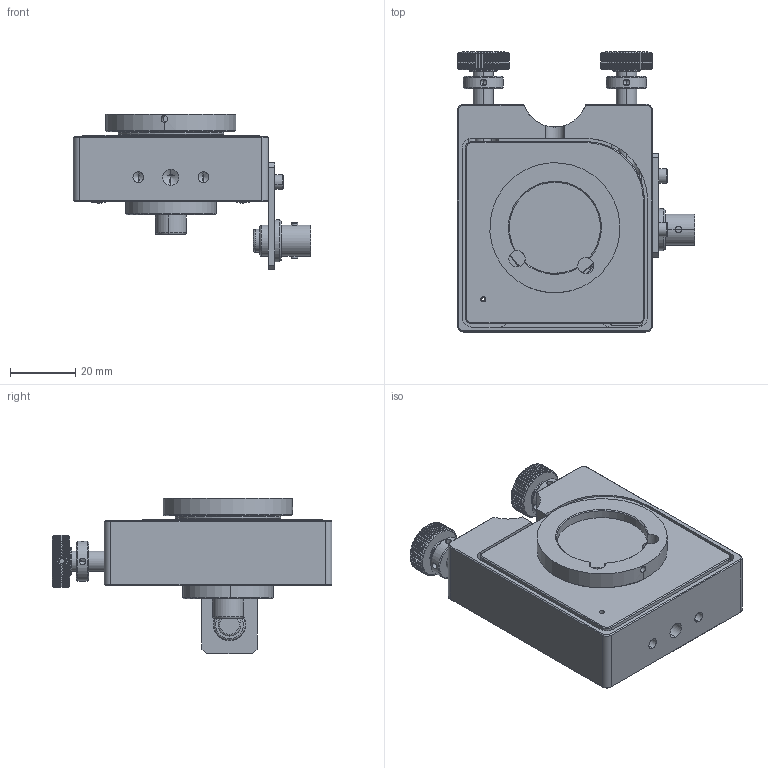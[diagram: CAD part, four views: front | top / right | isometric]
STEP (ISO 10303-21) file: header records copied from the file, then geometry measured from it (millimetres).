
FILE_DESCRIPTION (( 'STEP AP203' ), '1' );
FILE_NAME ('T25Z1K-B1定制版（H80）(25直径镜片).STEP', '2024-11-28T03:12:10', ( 'Windows User' ), ( 'P R C' ), 'SwSTEP 2.0', 'SolidWorks 2016', '' );
FILE_SCHEMA (( 'CONFIG_CONTROL_DESIGN' ));
Length unit declared in the file: millimetre
Products named in the file (27): T25Z1K-B1定制版（H80）(25直径镜片); N81蹟裝郪傖B; N81蹟裝郪傖C; N81蹟裝C1; NMV25.4蹟杶; BNC諉諳; NMV25.4挃詩菜; NMV38.1嘐隅殤; M6-16; N81蹟裝D1; TUN褲极; 9.5詩紩; NMV25.4詩紩; T30Z1K.24.03.23; hexagon socket head cap screws gb_GB_FASTENER_SCREWS_HSHCS M2.5X4-N; BNC蟀諉殤A1; ZT35H80K-3D装配体（25）; NMV25.4覃淕輸; 覃淕殤NMV38.1; NMV38.1覃淕殤; NMV25.4覃淕裝; TUB噩え盓殤25; 湍豪恇蹟譫-2; NMV25.4坶踡簽; NMV25.4嶺銅裝; GB╱T 77-2007[内六角平端紧定螺钉M4×12]_M4×8; hex socket set screws with cone point gb_GB_FASTENER_SCREWS_HSCP M2.5X3-N
Assembly tree (37 placements, depth 4):
  T25Z1K-B1定制版（H80）(25直径镜片)
    T30Z1K.24.03.23
      NMV38.1嘐隅殤
      覃淕殤NMV38.1
        NMV38.1覃淕殤
        NMV25.4覃淕輸  x2
      NMV25.4詩紩  x2
      NMV25.4嶺銅裝  x4
      NMV25.4挃詩菜
      NMV25.4蹟杶  x2
      NMV25.4坶踡簽  x2
      N81蹟裝郪傖B
        N81蹟裝D1
        湍豪恇蹟譫-2
        hex socket set screws with cone point gb_GB_FASTENER_SCREWS_HSCP M2.5X3-N
      N81蹟裝郪傖C
        N81蹟裝C1
        湍豪恇蹟譫-2
        hex socket set screws with cone point gb_GB_FASTENER_SCREWS_HSCP M2.5X3-N
      9.5詩紩
      NMV25.4覃淕裝  x2
      GB╱T 77-2007[内六角平端紧定螺钉M4×12]_M4×8
    ZT35H80K-3D装配体（25）
      TUN褲极
      TUB噩え盓殤25
      M6-16
    BNC諉諳
    BNC蟀諉殤A1
    hexagon socket head cap screws gb_GB_FASTENER_SCREWS_HSHCS M2.5X4-N  x2
Bounding box: 73 x 86.06 x 47.94 mm (x, y, z)
Volume: 67606.1 mm3; surface area: 46801.9 mm2
Topology: 32 solids, 32 shells, 1297 faces, 3499 edges, 2245 vertices
Faces by surface type: cylinder 573, plane 535, cone 143, bspline 30, torus 10, sphere 6
Entity records: 39389 total; most frequent: CARTESIAN_POINT 15012, ORIENTED_EDGE 4608, DIRECTION 4238, EDGE_CURVE 2304, AXIS2_PLACEMENT_3D 1586, VERTEX_POINT 1485, VECTOR 1066, LINE 1066
